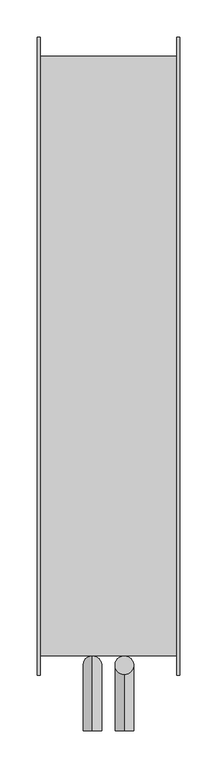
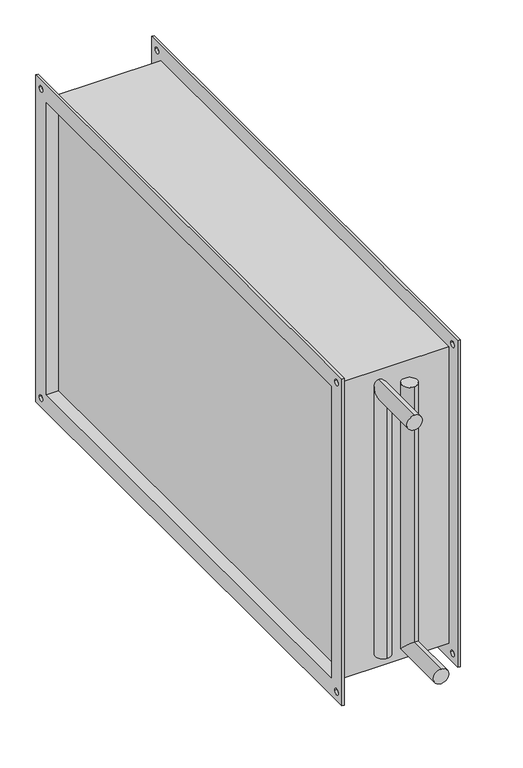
"""IFC4 building model written with IfcOpenShell, lengths in millimetres: proxy geometry, СВ_ВоздухонагревательВодяной_КанальныйПрямоугольный_200-1000_SPH-W : SPH-W-800x500/3."""

from ifc_helpers import new_model, si_unit, frame, origin, place, context, project, spatial, polyline, circle_curve, ellipse_curve, source, transform, mapped, element, save
from ifc_brep_helpers import plane_surface, cylinder_surface, revolved_surface, advanced_brep


def mechanical_equipment_36a0d534(model_context):
    return source(origin(), model_context, "Body", "AdvancedBrep", [
        advanced_brep(
        [(21.5, -404.0, 225.0), (21.5, -429.0, 225.0), (21.5, -404.0, -237.5), (21.5, -429.0, -212.5), (21.5, -505.0, -237.5), (21.5, -505.0, -212.5)],
        [
            (0, 1, circle_curve(frame((21.5, -416.5, 225.0), z_axis=(0.0, 0.0, 1.0), x_axis=(0.0, -1.0, 0.0)), 12.5)),
            (1, 0, circle_curve(frame((21.5, -416.5, 225.0), z_axis=(0.0, 0.0, 1.0), x_axis=(0.0, -1.0, 0.0)), 12.5)),
            (0, 2),
            (2, 3, ellipse_curve(frame((21.5, -416.5, -225.0), z_axis=(0.0, 0.7071067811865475, 0.7071067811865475), x_axis=(0.0, -0.7071067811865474, 0.7071067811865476)), 17.6776695, 12.5)),
            (3, 1),
            (3, 2, ellipse_curve(frame((21.5, -416.5, -225.0), z_axis=(0.0, 0.7071067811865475, 0.7071067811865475), x_axis=(0.0, -0.7071067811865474, 0.7071067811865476)), 17.6776695, 12.5)),
            (4, 5, circle_curve(frame((21.5, -505.0, -225.0), z_axis=(0.0, -1.0, 0.0), x_axis=(0.0, 0.0, 1.0)), 12.5)),
            (5, 4, circle_curve(frame((21.5, -505.0, -225.0), z_axis=(0.0, -1.0, 0.0), x_axis=(0.0, 0.0, 1.0)), 12.5)),
            (2, 4),
            (5, 3),
        ],
        [
            plane_surface(frame((21.5, -416.5, 225.0), z_axis=(0.0, 0.0, 1.0), x_axis=(-1.0, 0.0, 0.0))),
            cylinder_surface(frame((21.5, -416.5, 225.0), z_axis=(0.0, 0.0, 1.0), x_axis=(0.0, -1.0, 0.0)), 12.5),
            plane_surface(frame((21.5, -505.0, -225.0), z_axis=(0.0, -1.0, 0.0), x_axis=(-1.0, 0.0, 0.0))),
            cylinder_surface(frame((21.5, -416.5, -225.0), z_axis=(0.0, 1.0, 0.0), x_axis=(0.0, 0.0, 1.0)), 12.5),
        ],
        [
            (0, [[1, 2]]),
            (1, [[-1, 3, 4, 5]]),
            (1, [[-2, -5, 6, -3]]),
            (2, [[7, 8]]),
            (3, [[-4, 9, -8, 10]]),
            (3, [[-6, -10, -7, -9]]),
        ],
    ),
        advanced_brep(
        [(-21.5, -404.0, -225.0), (-21.5, -429.0, -225.0), (-21.5, -404.0, 237.5), (-21.5, -429.0, 212.5), (-21.5, -505.0, 237.5), (-21.5, -505.0, 212.5)],
        [
            (0, 1, circle_curve(frame((-21.5, -416.5, -225.0), z_axis=(0.0, 0.0, -1.0), x_axis=(0.0, -1.0, 0.0)), 12.5)),
            (1, 0, circle_curve(frame((-21.5, -416.5, -225.0), z_axis=(0.0, 0.0, -1.0), x_axis=(0.0, -1.0, 0.0)), 12.5)),
            (0, 2),
            (2, 3, ellipse_curve(frame((-21.5, -416.5, 225.0), z_axis=(0.0, 0.7071067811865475, -0.7071067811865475), x_axis=(0.0, -0.7071067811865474, -0.7071067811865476)), 17.6776695, 12.5)),
            (3, 1),
            (3, 2, ellipse_curve(frame((-21.5, -416.5, 225.0), z_axis=(0.0, 0.7071067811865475, -0.7071067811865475), x_axis=(0.0, -0.7071067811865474, -0.7071067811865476)), 17.6776695, 12.5)),
            (4, 5, circle_curve(frame((-21.5, -505.0, 225.0), z_axis=(0.0, -1.0, 0.0), x_axis=(0.0, 0.0, -1.0)), 12.5)),
            (5, 4, circle_curve(frame((-21.5, -505.0, 225.0), z_axis=(0.0, -1.0, 0.0), x_axis=(0.0, 0.0, -1.0)), 12.5)),
            (2, 4),
            (5, 3),
        ],
        [
            plane_surface(frame((-21.5, -416.5, -225.0), z_axis=(0.0, 0.0, -1.0), x_axis=(1.0, 0.0, 0.0))),
            cylinder_surface(frame((-21.5, -416.5, -225.0), z_axis=(0.0, 0.0, -1.0), x_axis=(0.0, -1.0, 0.0)), 12.5),
            plane_surface(frame((-21.5, -505.0, 225.0), z_axis=(0.0, -1.0, 0.0), x_axis=(1.0, 0.0, 0.0))),
            cylinder_surface(frame((-21.5, -416.5, 225.0), z_axis=(0.0, 1.0, 0.0), x_axis=(0.0, 0.0, -1.0)), 12.5),
        ],
        [
            (0, [[1, 2]]),
            (1, [[-1, 3, 4, 5]]),
            (1, [[-2, -5, 6, -3]]),
            (2, [[7, 8]]),
            (3, [[-4, 9, -8, 10]]),
            (3, [[-6, -10, -7, -9]]),
        ],
    ),
        advanced_brep(
        [(-92.0, -404.0, 254.0), (-92.0, -404.0, -254.0), (92.0, -404.0, -254.0), (92.0, -404.0, 254.0), (-92.0, 404.0, -254.0), (92.0, 404.0, -254.0), (-92.0, 404.0, 254.0), (92.0, 404.0, 254.0), (76.0, 400.0, -250.0), (76.0, 400.0, 250.0), (76.0, -400.0, 250.0), (76.0, -400.0, -250.0), (-76.0, -400.0, 250.0), (-76.0, 400.0, 250.0), (-76.0, 400.0, -250.0), (-76.0, -400.0, -250.0), (-96.0, -430.0, 280.0), (-96.0, 430.0, 280.0), (-96.0, 430.0, -280.0), (-96.0, -430.0, -280.0), (-96.0, -400.0, 250.0), (-96.0, -400.0, -250.0), (-96.0, 400.0, -250.0), (-96.0, 400.0, 250.0), (-96.0, 410.0, 265.0), (-96.0, 420.0, 265.0), (-96.0, -420.0, 265.0), (-96.0, -410.0, 265.0), (-96.0, -420.0, -265.0), (-96.0, -410.0, -265.0), (-96.0, 410.0, -265.0), (-96.0, 420.0, -265.0), (-92.0, -430.0, 280.0), (-92.0, -430.0, -280.0), (-92.0, 430.0, -280.0), (-92.0, 430.0, 280.0), (-92.0, 420.0, 265.0), (-92.0, 410.0, 265.0), (-92.0, -410.0, 265.0), (-92.0, -420.0, 265.0), (-92.0, -410.0, -265.0), (-92.0, -420.0, -265.0), (-92.0, 420.0, -265.0), (-92.0, 410.0, -265.0), (92.0, 430.0, 280.0), (92.0, 430.0, -280.0), (92.0, -430.0, -280.0), (92.0, -430.0, 280.0), (92.0, 410.0, 265.0), (92.0, 420.0, 265.0), (92.0, -420.0, 265.0), (92.0, -410.0, 265.0), (92.0, -420.0, -265.0), (92.0, -410.0, -265.0), (92.0, 410.0, -265.0), (92.0, 420.0, -265.0), (96.0, 430.0, 280.0), (96.0, -430.0, 280.0), (96.0, -430.0, -280.0), (96.0, 430.0, -280.0), (96.0, 400.0, 250.0), (96.0, 400.0, -250.0), (96.0, -400.0, -250.0), (96.0, -400.0, 250.0), (96.0, 420.0, 265.0), (96.0, 410.0, 265.0), (96.0, -410.0, 265.0), (96.0, -420.0, 265.0), (96.0, -410.0, -265.0), (96.0, -420.0, -265.0), (96.0, 420.0, -265.0), (96.0, 410.0, -265.0)],
        [
            (0, 1),
            (1, 2),
            (2, 3),
            (3, 0),
            (1, 4),
            (4, 5),
            (5, 2),
            (4, 6),
            (6, 7),
            (7, 5),
            (6, 0),
            (3, 7),
            (8, 9),
            (9, 10),
            (10, 11),
            (11, 8),
            (12, 13),
            (13, 14),
            (14, 15),
            (15, 12),
            (16, 17),
            (17, 18),
            (18, 19),
            (19, 16),
            (20, 21),
            (21, 22),
            (22, 23),
            (23, 20),
            (24, 25, circle_curve(frame((-96.0, 415.0, 265.0), z_axis=(1.0, 0.0, 0.0), x_axis=(0.0, -1.0, 0.0)), 5.0)),
            (25, 24, circle_curve(frame((-96.0, 415.0, 265.0), z_axis=(1.0, 0.0, 0.0), x_axis=(0.0, -1.0, 0.0)), 5.0)),
            (26, 27, circle_curve(frame((-96.0, -415.0, 265.0), z_axis=(1.0, 0.0, 0.0), x_axis=(0.0, -1.0, 0.0)), 5.0)),
            (27, 26, circle_curve(frame((-96.0, -415.0, 265.0), z_axis=(1.0, 0.0, 0.0), x_axis=(0.0, -1.0, 0.0)), 5.0)),
            (28, 29, circle_curve(frame((-96.0, -415.0, -265.0), z_axis=(1.0, 0.0, 0.0), x_axis=(0.0, -1.0, 0.0)), 5.0)),
            (29, 28, circle_curve(frame((-96.0, -415.0, -265.0), z_axis=(1.0, 0.0, 0.0), x_axis=(0.0, -1.0, 0.0)), 5.0)),
            (30, 31, circle_curve(frame((-96.0, 415.0, -265.0), z_axis=(1.0, 0.0, 0.0), x_axis=(0.0, -1.0, 0.0)), 5.0)),
            (31, 30, circle_curve(frame((-96.0, 415.0, -265.0), z_axis=(1.0, 0.0, 0.0), x_axis=(0.0, -1.0, 0.0)), 5.0)),
            (32, 33),
            (33, 34),
            (34, 35),
            (35, 32),
            (36, 37, circle_curve(frame((-92.0, 415.0, 265.0), z_axis=(-1.0, 0.0, 0.0), x_axis=(0.0, -1.0, 0.0)), 5.0)),
            (37, 36, circle_curve(frame((-92.0, 415.0, 265.0), z_axis=(-1.0, 0.0, 0.0), x_axis=(0.0, -1.0, 0.0)), 5.0)),
            (38, 39, circle_curve(frame((-92.0, -415.0, 265.0), z_axis=(-1.0, 0.0, 0.0), x_axis=(0.0, -1.0, 0.0)), 5.0)),
            (39, 38, circle_curve(frame((-92.0, -415.0, 265.0), z_axis=(-1.0, 0.0, 0.0), x_axis=(0.0, -1.0, 0.0)), 5.0)),
            (40, 41, circle_curve(frame((-92.0, -415.0, -265.0), z_axis=(-1.0, 0.0, 0.0), x_axis=(0.0, -1.0, 0.0)), 5.0)),
            (41, 40, circle_curve(frame((-92.0, -415.0, -265.0), z_axis=(-1.0, 0.0, 0.0), x_axis=(0.0, -1.0, 0.0)), 5.0)),
            (42, 43, circle_curve(frame((-92.0, 415.0, -265.0), z_axis=(-1.0, 0.0, 0.0), x_axis=(0.0, -1.0, 0.0)), 5.0)),
            (43, 42, circle_curve(frame((-92.0, 415.0, -265.0), z_axis=(-1.0, 0.0, 0.0), x_axis=(0.0, -1.0, 0.0)), 5.0)),
            (19, 33),
            (32, 16),
            (18, 34),
            (17, 35),
            (44, 45),
            (45, 46),
            (46, 47),
            (47, 44),
            (48, 49, circle_curve(frame((92.0, 415.0, 265.0), z_axis=(1.0, 0.0, 0.0), x_axis=(0.0, -1.0, 0.0)), 5.0)),
            (49, 48, circle_curve(frame((92.0, 415.0, 265.0), z_axis=(1.0, 0.0, 0.0), x_axis=(0.0, -1.0, 0.0)), 5.0)),
            (50, 51, circle_curve(frame((92.0, -415.0, 265.0), z_axis=(1.0, 0.0, 0.0), x_axis=(0.0, -1.0, 0.0)), 5.0)),
            (51, 50, circle_curve(frame((92.0, -415.0, 265.0), z_axis=(1.0, 0.0, 0.0), x_axis=(0.0, -1.0, 0.0)), 5.0)),
            (52, 53, circle_curve(frame((92.0, -415.0, -265.0), z_axis=(1.0, 0.0, 0.0), x_axis=(0.0, -1.0, 0.0)), 5.0)),
            (53, 52, circle_curve(frame((92.0, -415.0, -265.0), z_axis=(1.0, 0.0, 0.0), x_axis=(0.0, -1.0, 0.0)), 5.0)),
            (54, 55, circle_curve(frame((92.0, 415.0, -265.0), z_axis=(1.0, 0.0, 0.0), x_axis=(0.0, -1.0, 0.0)), 5.0)),
            (55, 54, circle_curve(frame((92.0, 415.0, -265.0), z_axis=(1.0, 0.0, 0.0), x_axis=(0.0, -1.0, 0.0)), 5.0)),
            (56, 57),
            (57, 58),
            (58, 59),
            (59, 56),
            (60, 61),
            (61, 62),
            (62, 63),
            (63, 60),
            (64, 65, circle_curve(frame((96.0, 415.0, 265.0), z_axis=(-1.0, 0.0, 0.0), x_axis=(0.0, -1.0, 0.0)), 5.0)),
            (65, 64, circle_curve(frame((96.0, 415.0, 265.0), z_axis=(-1.0, 0.0, 0.0), x_axis=(0.0, -1.0, 0.0)), 5.0)),
            (66, 67, circle_curve(frame((96.0, -415.0, 265.0), z_axis=(-1.0, 0.0, 0.0), x_axis=(0.0, -1.0, 0.0)), 5.0)),
            (67, 66, circle_curve(frame((96.0, -415.0, 265.0), z_axis=(-1.0, 0.0, 0.0), x_axis=(0.0, -1.0, 0.0)), 5.0)),
            (68, 69, circle_curve(frame((96.0, -415.0, -265.0), z_axis=(-1.0, 0.0, 0.0), x_axis=(0.0, -1.0, 0.0)), 5.0)),
            (69, 68, circle_curve(frame((96.0, -415.0, -265.0), z_axis=(-1.0, 0.0, 0.0), x_axis=(0.0, -1.0, 0.0)), 5.0)),
            (70, 71, circle_curve(frame((96.0, 415.0, -265.0), z_axis=(-1.0, 0.0, 0.0), x_axis=(0.0, -1.0, 0.0)), 5.0)),
            (71, 70, circle_curve(frame((96.0, 415.0, -265.0), z_axis=(-1.0, 0.0, 0.0), x_axis=(0.0, -1.0, 0.0)), 5.0)),
            (47, 57),
            (56, 44),
            (46, 58),
            (45, 59),
            (23, 13),
            (12, 20),
            (22, 14),
            (21, 15),
            (60, 9),
            (8, 61),
            (11, 62),
            (10, 63),
            (36, 25),
            (24, 37),
            (64, 49),
            (48, 65),
            (38, 27),
            (26, 39),
            (66, 51),
            (50, 67),
            (40, 29),
            (28, 41),
            (68, 53),
            (52, 69),
            (42, 31),
            (30, 43),
            (70, 55),
            (54, 71),
        ],
        [
            plane_surface(frame((-76.0, -404.0, 254.0), z_axis=(0.0, -1.0, 0.0), x_axis=(-1.0, 0.0, 0.0))),
            plane_surface(frame((-76.0, -404.0, -254.0), z_axis=(0.0, 0.0, -1.0), x_axis=(-1.0, 0.0, 0.0))),
            plane_surface(frame((-76.0, 404.0, -254.0), z_axis=(0.0, 1.0, 0.0), x_axis=(-1.0, 0.0, 0.0))),
            plane_surface(frame((-76.0, 404.0, 254.0), z_axis=(0.0, 0.0, 1.0), x_axis=(-1.0, 0.0, 0.0))),
            plane_surface(frame((76.0, -404.0, 254.0), z_axis=(1.0, 0.0, 0.0), x_axis=(0.0, 0.0, -1.0))),
            plane_surface(frame((-76.0, -404.0, 254.0), z_axis=(-1.0, 0.0, 0.0), x_axis=(0.0, 0.0, 1.0))),
            plane_surface(frame((-96.0, -430.0, 280.0), z_axis=(-1.0, 0.0, 0.0), x_axis=(0.0, 0.0, 1.0))),
            plane_surface(frame((-92.0, -430.0, 280.0), z_axis=(1.0, 0.0, 0.0), x_axis=(0.0, 0.0, -1.0))),
            plane_surface(frame((-92.0, -430.0, 280.0), z_axis=(0.0, -1.0, 0.0), x_axis=(-1.0, 0.0, 0.0))),
            plane_surface(frame((-92.0, -430.0, -280.0), z_axis=(0.0, 0.0, -1.0), x_axis=(-1.0, 0.0, 0.0))),
            plane_surface(frame((-92.0, 430.0, -280.0), z_axis=(0.0, 1.0, 0.0), x_axis=(-1.0, 0.0, 0.0))),
            plane_surface(frame((-92.0, 430.0, 280.0), z_axis=(0.0, 0.0, 1.0), x_axis=(-1.0, 0.0, 0.0))),
            plane_surface(frame((92.0, 400.0, -250.0), z_axis=(-1.0, 0.0, 0.0), x_axis=(0.0, 0.0, 1.0))),
            plane_surface(frame((96.0, 400.0, -250.0), z_axis=(1.0, 0.0, 0.0), x_axis=(0.0, 0.0, -1.0))),
            plane_surface(frame((96.0, 430.0, 280.0), z_axis=(0.0, 0.0, 1.0), x_axis=(-1.0, 0.0, 0.0))),
            plane_surface(frame((96.0, -430.0, 280.0), z_axis=(0.0, -1.0, 0.0), x_axis=(-1.0, 0.0, 0.0))),
            plane_surface(frame((96.0, -430.0, -280.0), z_axis=(0.0, 0.0, -1.0), x_axis=(-1.0, 0.0, 0.0))),
            plane_surface(frame((96.0, 430.0, -280.0), z_axis=(0.0, 1.0, 0.0), x_axis=(-1.0, 0.0, 0.0))),
            plane_surface(frame((-92.0, -400.0, 250.0), z_axis=(0.0, 0.0, -1.0), x_axis=(-1.0, 0.0, 0.0))),
            plane_surface(frame((-92.0, 400.0, 250.0), z_axis=(0.0, -1.0, 0.0), x_axis=(-1.0, 0.0, 0.0))),
            plane_surface(frame((-92.0, 400.0, -250.0), z_axis=(0.0, 0.0, 1.0), x_axis=(-1.0, 0.0, 0.0))),
            plane_surface(frame((-92.0, -400.0, -250.0), z_axis=(0.0, 1.0, 0.0), x_axis=(-1.0, 0.0, 0.0))),
            plane_surface(frame((96.0, 400.0, 250.0), z_axis=(0.0, -1.0, 0.0), x_axis=(-1.0, 0.0, 0.0))),
            plane_surface(frame((96.0, 400.0, -250.0), z_axis=(0.0, 0.0, 1.0), x_axis=(-1.0, 0.0, 0.0))),
            plane_surface(frame((96.0, -400.0, -250.0), z_axis=(0.0, 1.0, 0.0), x_axis=(-1.0, 0.0, 0.0))),
            plane_surface(frame((96.0, -400.0, 250.0), z_axis=(0.0, 0.0, -1.0), x_axis=(-1.0, 0.0, 0.0))),
            revolved_surface(polyline([(-96.0, 410.0, 265.0), (-92.0, 410.0, 265.0)]), (96.0, 415.0, 265.0), (-1.0, 0.0, 0.0)),
            revolved_surface(polyline([(92.0, 410.0, 265.0), (96.0, 410.0, 265.0)]), (96.0, 415.0, 265.0), (-1.0, 0.0, 0.0)),
            revolved_surface(polyline([(-96.0, -420.0, 265.0), (-92.0, -420.0, 265.0)]), (21.5, -415.0, 265.0), (-1.0, 0.0, 0.0)),
            revolved_surface(polyline([(92.0, -420.0, 265.0), (96.0, -420.0, 265.0)]), (21.5, -415.0, 265.0), (-1.0, 0.0, 0.0)),
            revolved_surface(polyline([(-96.0, -420.0, -265.0), (-92.0, -420.0, -265.0)]), (21.5, -415.0, -265.0), (-1.0, 0.0, 0.0)),
            revolved_surface(polyline([(92.0, -420.0, -265.0), (96.0, -420.0, -265.0)]), (21.5, -415.0, -265.0), (-1.0, 0.0, 0.0)),
            revolved_surface(polyline([(-96.0, 410.0, -265.0), (-92.0, 410.0, -265.0)]), (21.5, 415.0, -265.0), (-1.0, 0.0, 0.0)),
            revolved_surface(polyline([(92.0, 410.0, -265.0), (96.0, 410.0, -265.0)]), (21.5, 415.0, -265.0), (-1.0, 0.0, 0.0)),
        ],
        [
            (0, [[1, 2, 3, 4]]),
            (1, [[-2, 5, 6, 7]]),
            (2, [[-6, 8, 9, 10]]),
            (3, [[-9, 11, -4, 12]]),
            (4, [[13, 14, 15, 16]]),
            (5, [[17, 18, 19, 20]]),
            (6, [[21, 22, 23, 24], [25, 26, 27, 28], [29, 30], [31, 32], [33, 34], [35, 36]]),
            (7, [[37, 38, 39, 40], [-1, -11, -8, -5], [41, 42], [43, 44], [45, 46], [47, 48]]),
            (8, [[-24, 49, -37, 50]]),
            (9, [[-23, 51, -38, -49]]),
            (10, [[-22, 52, -39, -51]]),
            (11, [[-21, -50, -40, -52]]),
            (12, [[53, 54, 55, 56], [-3, -7, -10, -12], [57, 58], [59, 60], [61, 62], [63, 64]]),
            (13, [[65, 66, 67, 68], [69, 70, 71, 72], [73, 74], [75, 76], [77, 78], [79, 80]]),
            (14, [[-56, 81, -65, 82]]),
            (15, [[-55, 83, -66, -81]]),
            (16, [[-54, 84, -67, -83]]),
            (17, [[-53, -82, -68, -84]]),
            (18, [[-28, 85, -17, 86]]),
            (19, [[-27, 87, -18, -85]]),
            (20, [[-26, 88, -19, -87]]),
            (21, [[-25, -86, -20, -88]]),
            (22, [[-69, 89, -13, 90]]),
            (23, [[-70, -90, -16, 91]]),
            (24, [[-71, -91, -15, 92]]),
            (25, [[-89, -72, -92, -14]]),
            (26, [[93, -29, 94, -41]]),
            (27, [[95, -57, 96, -73]]),
            (26, [[-93, -42, -94, -30]]),
            (27, [[-95, -74, -96, -58]]),
            (28, [[97, -31, 98, -43]]),
            (29, [[99, -59, 100, -75]]),
            (28, [[-97, -44, -98, -32]]),
            (29, [[-99, -76, -100, -60]]),
            (30, [[101, -33, 102, -45]]),
            (31, [[103, -61, 104, -77]]),
            (30, [[-101, -46, -102, -34]]),
            (31, [[-103, -78, -104, -62]]),
            (32, [[105, -35, 106, -47]]),
            (33, [[107, -63, 108, -79]]),
            (32, [[-105, -48, -106, -36]]),
            (33, [[-107, -80, -108, -64]]),
        ],
    ),
    ])


if __name__ == "__main__":
    model = new_model("IFC4")
    model_context = context("Model", 3, world=origin())
    ifc_project = project(units=[si_unit("LENGTHUNIT", "METRE", prefix="MILLI")], contexts=[model_context])
    site = spatial("IfcSite", under=ifc_project)
    building = spatial("IfcBuilding", under=site)
    placement = place(None, origin())
    mechanical_equipment_shape = mechanical_equipment_36a0d534(model_context)
    element("IfcBuildingElementProxy", 1, Name="СВ_ВоздухонагревательВодяной_КанальныйПрямоугольный_200-1000_SPH-W : SPH-W-800x500/3", ObjectType="СВ_ВоздухонагревательВодяной_КанальныйПрямоугольный_200-1000_SPH-W : SPH-W-800x500/3", at=placement, inside=building, context=model_context, shape_type="MappedRepresentation", body=[
        mapped(mechanical_equipment_shape, transform((0.0, 0.0, 0.0), x_axis=(1.0, 0.0, 0.0), y_axis=(0.0, 1.0, 0.0), z_axis=(0.0, 0.0, 1.0))),
    ])
    save(model, "model.ifc")
